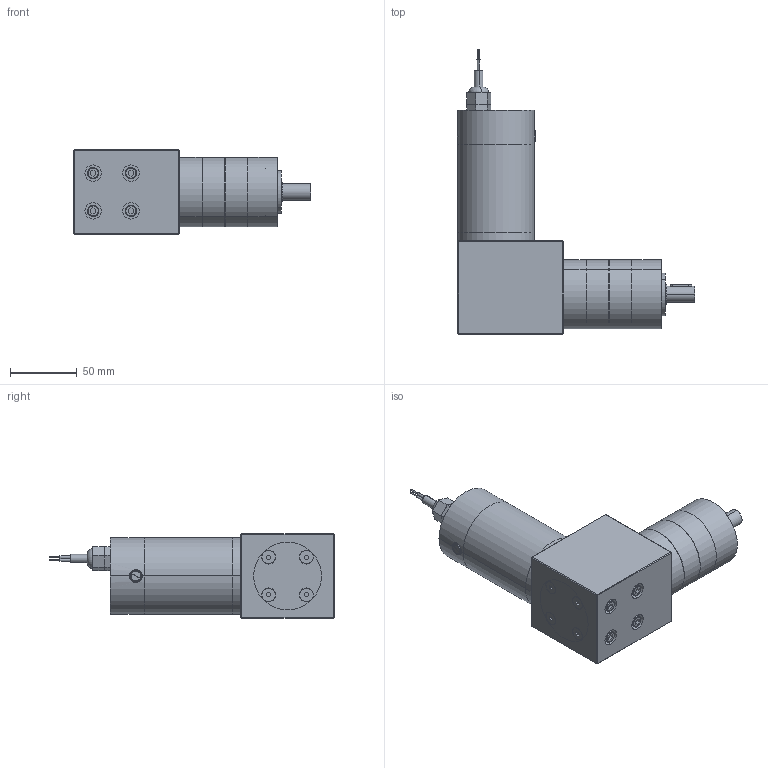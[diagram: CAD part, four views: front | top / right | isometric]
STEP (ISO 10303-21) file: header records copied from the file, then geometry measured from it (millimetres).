
FILE_DESCRIPTION (( 'STEP AP203' ), '1' );
FILE_NAME ('tm57gra3.step', '2022-05-11T15:44:06', ( '' ), ( '' ), 'SwSTEP 2.0', 'SolidWorks 2017', '' );
FILE_SCHEMA (( 'CONFIG_CONTROL_DESIGN' ));
Length unit declared in the file: millimetre
Products named in the file (1): tm57gra3
Bounding box: 178.11 x 212.86 x 63.5 mm (x, y, z)
Volume: 753408.2 mm3; surface area: 121965.8 mm2
Topology: 25 solids, 25 shells, 578 faces, 1253 edges, 776 vertices
Faces by surface type: plane 270, cylinder 216, cone 81, torus 7, sphere 4
Entity records: 15974 total; most frequent: DIRECTION 2923, CARTESIAN_POINT 2862, ORIENTED_EDGE 2474, EDGE_CURVE 1237, AXIS2_PLACEMENT_3D 1121, VERTEX_POINT 776, EDGE_LOOP 689, LINE 681
